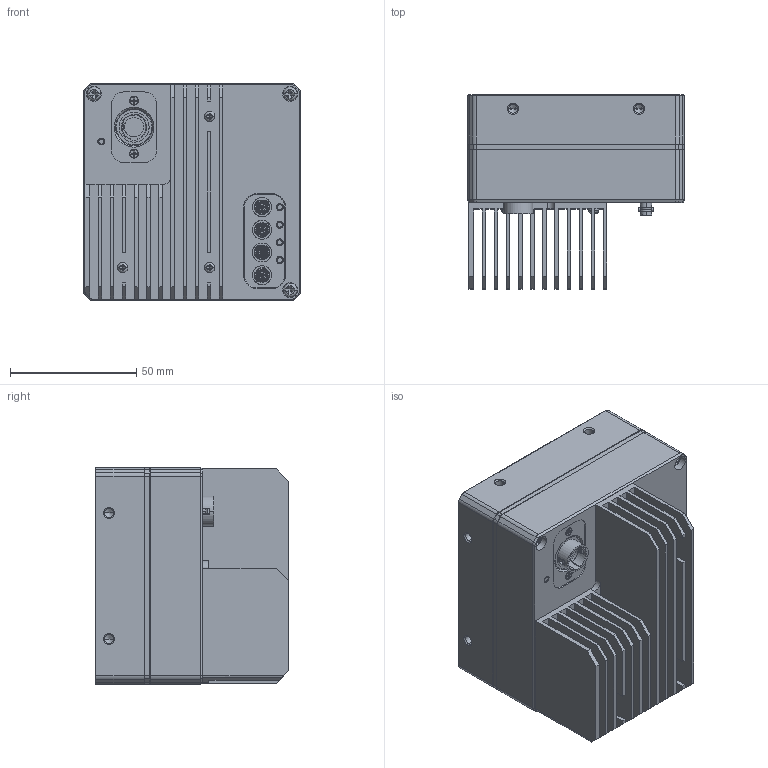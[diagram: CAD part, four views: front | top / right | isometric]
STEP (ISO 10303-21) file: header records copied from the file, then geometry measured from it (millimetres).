
FILE_DESCRIPTION((''),'2;1');
FILE_NAME('MV-CL08T5-500Y4M_ASM','2026-08-24T10:23:01',('wuxin28'),(''),'CREO PARAMETRIC BY PTC INC, 2020044','CREO PARAMETRIC BY PTC INC, 2020044','');
FILE_SCHEMA(('CONFIG_CONTROL_DESIGN'));
Products named in the file (22): DE-14-093584; DE-14-094722; DE-19-002529; DE-17-005835; DE-20-056279_ASM; PCB-MV-CXP12-JKBDB; OBFS100PCB-A738-BODY-1-SOLID1; DE-19-000860; OBFS100PCB-A738-2_ASM; 101300190; DE-11-003273; PCB-MV-CXP12-JKBZJ_ASM; DE-14-096738; D-01-35-26-0467; D-01-35-26-0837; DE-20-054049_ASM; SC-PM3X18-NI-GB823; SC-KM2X4B; DE-1A-000501; DE-15-008749; SC-P0M2X5B-GB818; MV-CL08T5-500Y4M_ASM
Assembly tree (37 placements, depth 4):
  MV-CL08T5-500Y4M_ASM
    DE-20-056279_ASM
      DE-14-093584
      DE-14-094722
      DE-19-002529
      DE-17-005835
    PCB-MV-CXP12-JKBZJ_ASM
      PCB-MV-CXP12-JKBDB
      OBFS100PCB-A738-2_ASM  x4
        OBFS100PCB-A738-BODY-1-SOLID1
        DE-19-000860
      101300190
      DE-11-003273
    DE-20-054049_ASM
      DE-14-096738
      D-01-35-26-0467  x8
      D-01-35-26-0837
    SC-PM3X18-NI-GB823  x4
    SC-KM2X4B  x2
    DE-1A-000501
    DE-15-008749
    SC-P0M2X5B-GB818  x3
Bounding box: 86 x 76.88 x 86 mm (x, y, z)
Volume: 163463.4 mm3; surface area: 148789.2 mm2
Topology: 36 solids, 38 shells, 2936 faces, 7360 edges, 4623 vertices
Faces by surface type: plane 1299, cylinder 992, cone 409, torus 218, bspline 18
Entity records: 68076 total; most frequent: CARTESIAN_POINT 14980, DIRECTION 11602, ORIENTED_EDGE 10712, EDGE_CURVE 5356, AXIS2_PLACEMENT_3D 4230, VERTEX_POINT 3405, VECTOR 3142, LINE 3142
